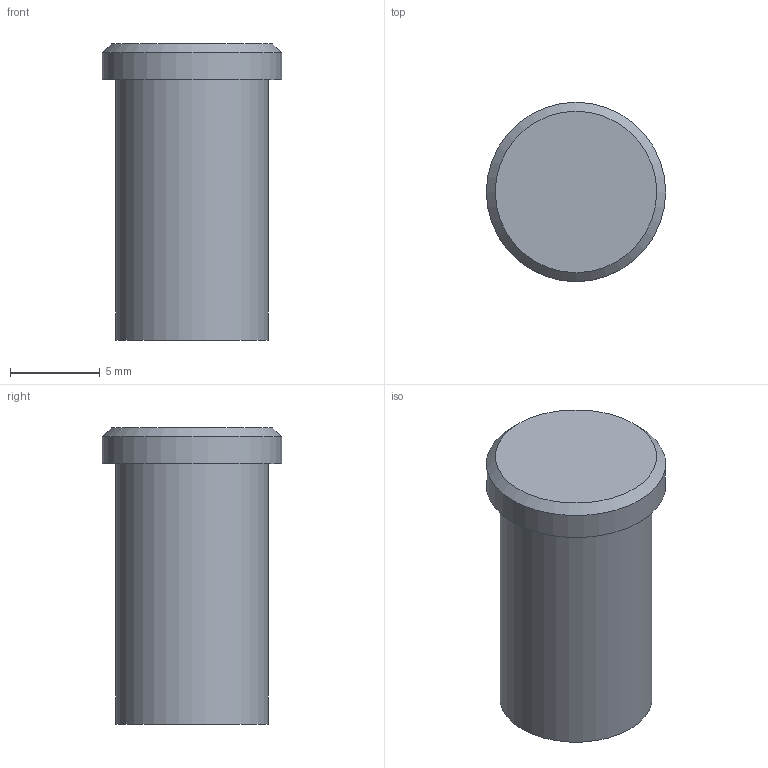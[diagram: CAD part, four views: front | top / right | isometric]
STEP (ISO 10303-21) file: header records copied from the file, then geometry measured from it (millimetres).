
FILE_DESCRIPTION (( 'STEP AP214' ), '1' );
FILE_NAME ('ﾂﾇﾊﾂﾌ1ﾀ.STEP', '2021-05-19T08:15:22', ( '' ), ( '' ), 'SwSTEP 2.0', 'SolidWorks 2018', '' );
FILE_SCHEMA (( 'AUTOMOTIVE_DESIGN' ));
Length unit declared in the file: millimetre
Products named in the file (1): ﾂﾇﾊﾂﾌ1ﾀ
Bounding box: 10 x 10 x 16.5 mm (x, y, z)
Volume: 865.4 mm3; surface area: 724 mm2
Topology: 1 solids, 1 shells, 8 faces, 11 edges, 7 vertices
Faces by surface type: plane 4, cylinder 3, cone 1
Full cylindrical faces by diameter (mm): 3.5 x1, 8.5 x1, 10 x1
Entity records: 188 total; most frequent: DIRECTION 32, CARTESIAN_POINT 23, AXIS2_PLACEMENT_3D 16, ORIENTED_EDGE 14, EDGE_LOOP 14, FACE_OUTER_BOUND 11, ADVANCED_FACE 8, VERTEX_POINT 7
